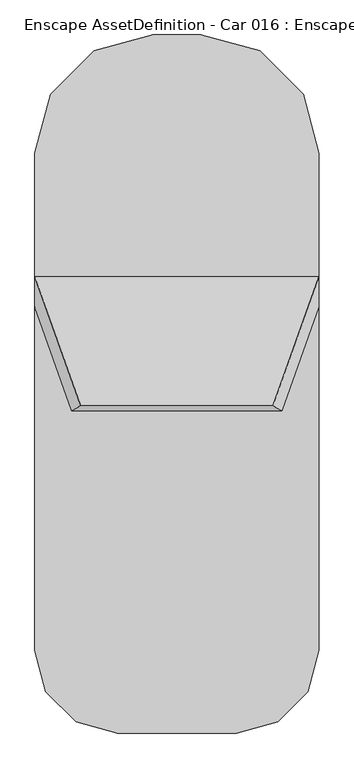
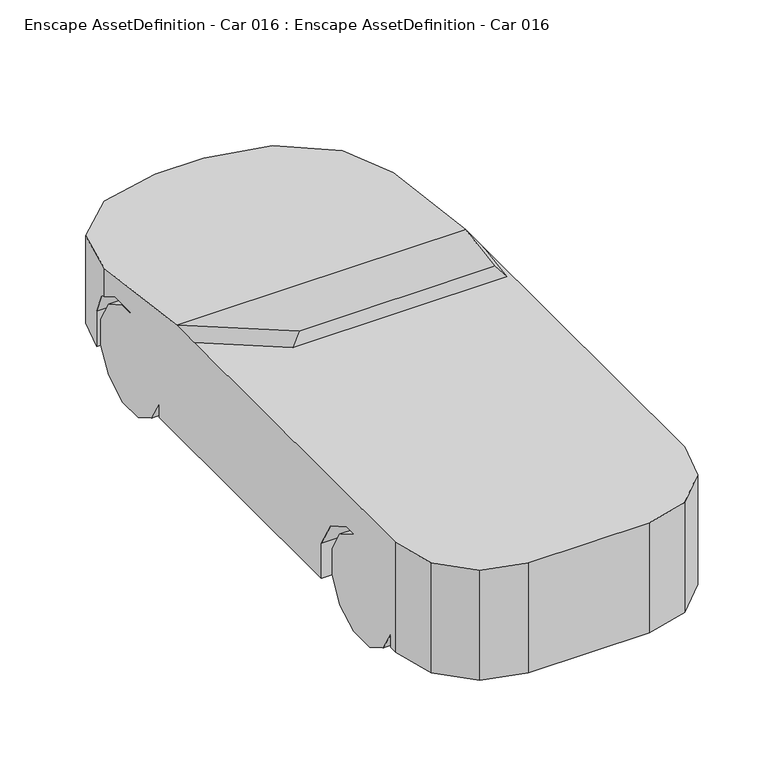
"""IFC4 building model written with IfcOpenShell, lengths in millimetres: geographic element geometry, Enscape AssetDefinition - Car 016 : Enscape AssetDefinition - Car 016."""

import ifcopenshell
import ifcopenshell.guid

model = None  # the IFC model being written
_history = None  # IfcOwnerHistory: only IFC2X3 demands one
_inside = {}  # id of a spatial element -> (the spatial element, [elements in it])
_under = {}  # id of a project, library or spatial element -> (it, [spatial elements below it])
_declared = {}  # id of a project -> (the project, [libraries it declares])
_typed = {}  # id of a type object -> (the type object, [elements of that type])
_made_of = {}  # id of a material, layer set ... -> (it, [elements and type objects made of it])


def new_model(schema):
    """Start an empty IFC model of exactly this schema.

    Asked for "IFC4X3", IfcOpenShell would pick the latest addendum, in which some entities
    have other attributes; the version numbers below select the first issue.
    IFC2X3 requires an IfcOwnerHistory on every rooted entity: one is made here for all.
    """
    global model, _history
    if schema == "IFC4X3":
        model = ifcopenshell.file(schema_version=(4, 3, 0, 0))
    else:
        model = ifcopenshell.file(schema=schema)
    _inside.clear()
    _under.clear()
    _declared.clear()
    _typed.clear()
    _made_of.clear()
    _history = None
    if model.schema == "IFC2X3":
        org = make("IfcOrganization", Name="unknown")
        user = make(
            "IfcPersonAndOrganization",
            ThePerson=make("IfcPerson", FamilyName="unknown"),
            TheOrganization=org,
        )
        app = make(
            "IfcApplication",
            ApplicationDeveloper=org,
            Version="unknown",
            ApplicationFullName="unknown",
            ApplicationIdentifier="unknown",
        )
        _history = make(
            "IfcOwnerHistory",
            OwningUser=user,
            OwningApplication=app,
            ChangeAction="ADDED",
            CreationDate=0,
        )
    return model


def make(cls, **values):
    """One entity of the class cls with the attributes given. An attribute that is None is left unset."""
    return model.create_entity(
        cls, **{name: value for name, value in values.items() if value is not None}
    )


def rooted(cls, **values):
    """An entity with a GlobalId (a new one), such as an element, a storey or a relation."""
    return make(cls, GlobalId=ifcopenshell.guid.new(), OwnerHistory=_history, **values)


def si_unit(unit_type, name, prefix=None):
    """IfcSIUnit, for example si_unit("LENGTHUNIT", "METRE", prefix="MILLI")."""
    return make("IfcSIUnit", UnitType=unit_type, Prefix=prefix, Name=name)


def assignment(units):
    """IfcUnitAssignment: the units of a project."""
    return None if units is None else make("IfcUnitAssignment", Units=units)


def point(xyz):
    """IfcCartesianPoint."""
    return None if xyz is None else make("IfcCartesianPoint", Coordinates=xyz)


def direction(xyz):
    """IfcDirection."""
    return None if xyz is None else make("IfcDirection", DirectionRatios=xyz)


def frame(location, z_axis=None, x_axis=None):
    """IfcAxis2Placement3D, a coordinate frame: its origin and axes. An axis left out is left unset."""
    return make(
        "IfcAxis2Placement3D",
        Location=point(location),
        Axis=direction(z_axis),
        RefDirection=direction(x_axis),
    )


def origin():
    """The frame at (0, 0, 0) with its axes left unset."""
    return frame((0.0, 0.0, 0.0))


def place(relative_to, where):
    """IfcLocalPlacement: puts the frame where relative to a parent placement (None: the world)."""
    return make(
        "IfcLocalPlacement", PlacementRelTo=relative_to, RelativePlacement=where
    )


def context(
    kind, dimensions, precision=None, world=None, true_north=None, identifier=None
):
    """IfcGeometricRepresentationContext, for example the 3D "Model" context."""
    return make(
        "IfcGeometricRepresentationContext",
        ContextIdentifier=identifier,
        ContextType=kind,
        CoordinateSpaceDimension=dimensions,
        Precision=precision,
        WorldCoordinateSystem=world,
        TrueNorth=true_north,
    )


def project(units=None, contexts=None):
    """IfcProject with its units and contexts."""
    return rooted(
        "IfcProject",
        Name="project",
        RepresentationContexts=contexts,
        UnitsInContext=assignment(units),
    )


def spatial(cls, under=None, at=None, **own):
    """A site, building, storey or space (cls), placed at a placement, below another one or the project."""
    s = rooted(cls, ObjectPlacement=at, **own)
    if under is not None:
        _under.setdefault(under.id(), (under, []))[1].append(s)
    return s


def point_list(points):
    """IfcCartesianPointList2D or 3D."""
    cls = (
        "IfcCartesianPointList2D" if len(points[0]) == 2 else "IfcCartesianPointList3D"
    )
    return make(cls, CoordList=points)


def triangles(points, corners, closed=None, point_numbers=None):
    """IfcTriangulatedFaceSet: each triangle names its three corners, points numbered from 1."""
    return make(
        "IfcTriangulatedFaceSet",
        Coordinates=point_list(points),
        Closed=closed,
        CoordIndex=corners,
        PnIndex=point_numbers,
    )


def shape(context_of_items, identifier, shape_type, items):
    """IfcShapeRepresentation: the items that make up one representation, for example the "Body"."""
    return make(
        "IfcShapeRepresentation",
        ContextOfItems=context_of_items,
        RepresentationIdentifier=identifier,
        RepresentationType=shape_type,
        Items=items,
    )


def source(mapping_origin, context_of_items, identifier, shape_type, items):
    """IfcRepresentationMap: a shape defined once, which mapped items show again and again."""
    return make(
        "IfcRepresentationMap",
        MappingOrigin=mapping_origin,
        MappedRepresentation=shape(context_of_items, identifier, shape_type, items),
    )


def transform(
    local_origin,
    x_axis=None,
    y_axis=None,
    z_axis=None,
    scale=None,
    scale2=None,
    scale3=None,
    uniform=True,
):
    """IfcCartesianTransformationOperator3D, or its non-uniform kind. x_axis, y_axis, z_axis: its Axis1, 2, 3."""
    if uniform:
        return make(
            "IfcCartesianTransformationOperator3D",
            Axis1=direction(x_axis),
            Axis2=direction(y_axis),
            LocalOrigin=point(local_origin),
            Scale=scale,
            Axis3=direction(z_axis),
        )
    return make(
        "IfcCartesianTransformationOperator3DnonUniform",
        Axis1=direction(x_axis),
        Axis2=direction(y_axis),
        LocalOrigin=point(local_origin),
        Scale=scale,
        Axis3=direction(z_axis),
        Scale2=scale2,
        Scale3=scale3,
    )


def mapped(mapping_source, mapping_target):
    """IfcMappedItem: shows the shape of a source again, moved by a transform."""
    return make(
        "IfcMappedItem", MappingSource=mapping_source, MappingTarget=mapping_target
    )


def made_of(thing, what):
    """Note that an element or type object is made of a material, layer set ...; save() writes the relation."""
    if what is not None:
        _made_of.setdefault(what.id(), (what, []))[1].append(thing)
    return thing


def element(
    cls,
    number,
    at=None,
    inside=None,
    cuts=None,
    type_object=None,
    material=None,
    context=None,
    identifier="Body",
    shape_type=None,
    held_by="IfcProductDefinitionShape",
    body=None,
    shapes=None,
    **own,
):
    """One element of the class cls, such as IfcWall. Its Tag is "e" and its number.

    at: its placement. inside: the storey or other place that contains it. cuts: it is an
    opening in that element (IfcRelVoidsElement). A single representation is given by context,
    identifier, shape_type and body (its items); several are given by shapes. held_by: the class
    of the entity that holds the representations. save() writes the other relations.
    """
    e = rooted(cls, Tag="e%d" % number, ObjectPlacement=at, **own)
    if body is not None:
        shapes = [shape(context, identifier, shape_type, body)]
    if shapes is not None:
        e.Representation = make(held_by, Representations=shapes)
    if inside is not None:
        _inside.setdefault(inside.id(), (inside, []))[1].append(e)
    if cuts is not None:
        rooted(
            "IfcRelVoidsElement", RelatingBuildingElement=cuts, RelatedOpeningElement=e
        )
    if type_object is not None:
        _typed.setdefault(type_object.id(), (type_object, []))[1].append(e)
    return made_of(e, material)


def aggregate(whole, parts):
    """IfcRelAggregates: a whole, such as a stair, and the parts it consists of."""
    return rooted("IfcRelAggregates", RelatingObject=whole, RelatedObjects=parts)


def save(model, path):
    """Write the relations noted so far, then the file.

    IfcRelAggregates (storeys below a building ...), IfcRelContainedInSpatialStructure (elements
    in a storey), IfcRelDefinesByType, IfcRelAssociatesMaterial and IfcRelDeclares: one each for
    every whole, place, type object, material and project.
    """
    for whole, parts in _under.values():
        aggregate(whole, parts)
    for where, things in _inside.values():
        rooted(
            "IfcRelContainedInSpatialStructure",
            RelatedElements=things,
            RelatingStructure=where,
        )
    for kind, things in _typed.values():
        rooted("IfcRelDefinesByType", RelatedObjects=things, RelatingType=kind)
    for what, things in _made_of.values():
        rooted("IfcRelAssociatesMaterial", RelatedObjects=things, RelatingMaterial=what)
    for by, libraries in _declared.values():
        rooted("IfcRelDeclares", RelatingContext=by, RelatedDefinitions=libraries)
    model.write(path)


def enscape_assetdefinition_car_016_enscape_assetdefinition_car_c40bcaf4(model_context):
    return source(origin(), model_context, "Body", "Tessellation", [
        triangles([(884.8579079, -1036.7504534, 239.1467945), (884.8579079, -1275.8166023, 653.2213926), (638.1643902, -1450.8252514, 653.2213926), (638.1643902, -1602.3869305, 565.7172134), (884.8579079, -1602.3869305, 565.7172134), (884.8579079, -1689.8913277, 239.1468853), (884.8579079, -1450.8252514, 653.2213926), (884.8579079, -1124.2547052, 565.7172134), (638.1643902, -1275.8166023, 653.2213926), (638.1643902, -1124.2547052, 565.7172134), (638.1643902, -1036.7504534, 414.1553527), (638.1643902, -1602.3870758, 87.5850609), (884.8579079, -1036.7504534, 414.1553527), (638.1643902, -1036.7504534, 239.1467945), (638.1643902, -1275.8167477, 0.0806409), (638.1643902, -1124.2549232, 87.5847975), (884.8579079, -1124.2549232, 87.5847975), (638.1643902, -1450.8253967, 0.0807209), (884.8579079, -1450.8253967, 0.0807209), (884.8579079, -1275.8167477, 0.0806409), (884.8579079, -1602.3870758, 87.5850609), (638.1643902, -1689.8913277, 414.1554254), (884.8579079, -1689.8913277, 414.1554254), (638.1643902, -1689.8913277, 239.1468853), (884.8579079, 1517.5006874, 239.1467581), (884.8579079, 951.8642103, 87.5850972), (884.8579079, 1103.4261074, 0.0808009), (884.8579079, 864.3601765, 239.1468671), (638.1643902, 1103.4261074, 0.0808009), (638.1643902, 951.8642103, 87.5850972), (638.1643902, 1278.4344658, 0.0806809), (638.1643902, 864.3601765, 239.1468671), (884.8579079, 1278.4344658, 0.0806809), (884.8579079, 1429.9964355, 87.5848701), (638.1643902, 1429.9964355, 87.5848701), (638.1643902, 1517.5006874, 239.1467581), (638.1643902, 1517.5006874, 414.1553527), (884.8579079, 1103.4262527, 653.2213926), (638.1643902, 1103.4262527, 653.2213926), (638.1643902, 1278.4347565, 653.2213926), (638.1643902, 1429.9967262, 565.7172861), (884.8579079, 1429.9967262, 565.7172861), (884.8579079, 1278.4347565, 653.2213926), (884.8579079, 1517.5006874, 414.1553527), (638.1643902, 951.8643557, 565.7172134), (884.8579079, 951.8643557, 565.7172134), (884.8579079, 864.3599585, 414.1554254), (638.1643902, 864.3599585, 414.1554254), (-884.8580532, -1450.8252514, 653.2213926), (-884.8580532, -1602.3869305, 565.7172134), (-638.1646082, -1602.3869305, 565.7172134), (-638.1646082, -1450.8252514, 653.2213926), (-884.8580532, -1602.3870758, 87.5850609), (-884.8580532, -1689.8913277, 414.1554254), (-638.1646082, -1689.8913277, 414.1554254), (-638.1646082, -1689.8913277, 239.1468853), (-884.8580532, -1689.8913277, 239.1468853), (-884.8580532, -1275.8167477, 0.0806409), (-638.1646082, -1602.3870758, 87.5850609), (-638.1646082, -1450.8253967, 0.0807209), (-884.8580532, -1450.8253967, 0.0807209), (-638.1646082, -1275.8167477, 0.0806409), (-638.1646082, -1124.2549232, 87.5847975), (-884.8580532, -1124.2549232, 87.5847975), (-884.8580532, -1036.7504534, 239.1467945), (-638.1646082, -1036.7504534, 239.1467945), (-638.1646082, -1036.7504534, 414.1553527), (-638.1646082, -1124.2547052, 565.7172134), (-884.8580532, -1124.2547052, 565.7172134), (-884.8580532, -1275.8166023, 653.2213926), (-638.1646082, -1275.8166023, 653.2213926), (-884.8580532, -1036.7504534, 414.1553527), (-884.8580532, 1278.4347565, 653.2213926), (-884.8580532, 864.3601765, 239.1468671), (-884.8580532, 1103.4262527, 653.2213926), (-884.8580532, 1429.9967262, 565.7172861), (-638.1646082, 1278.4347565, 653.2213926), (-638.1646082, 1429.9967262, 565.7172861), (-638.1646082, 1517.5006874, 414.1553527), (-638.1646082, 1517.5006874, 239.1467581), (-638.1646082, 1103.4262527, 653.2213926), (-884.8580532, 1517.5006874, 414.1553527), (-884.8580532, 1517.5006874, 239.1467581), (-638.1646082, 1429.9964355, 87.5848701), (-884.8580532, 1429.9964355, 87.5848701), (-884.8580532, 1278.4344658, 0.0806809), (-638.1646082, 1278.4344658, 0.0806809), (-638.1646082, 1103.4261074, 0.0808009), (-884.8580532, 1103.4261074, 0.0808009), (-884.8580532, 951.8642103, 87.5850972), (-638.1646082, 951.8642103, 87.5850972), (-638.1646082, 864.3601765, 239.1468671), (-884.8580532, 951.8643557, 565.7172134), (-638.1646082, 864.3599585, 414.1554254), (-884.8580532, 864.3599585, 414.1554254), (-638.1646082, 951.8643557, 565.7172134), (920.5409769, -1746.1326622, 429.2252541), (537.8161549, -1746.1326622, 429.2252541), (920.5409769, -1643.5584, 606.8887193), (920.5409769, -1746.1326622, 190.9407979), (920.5409769, -1801.313015, 930.5849859), (537.8161549, -1643.5584, 606.8887193), (920.5409769, -1465.8949711, 709.4627272), (920.5409769, -1260.7467373, 709.4627272), (537.8161549, -980.5091188, 429.2251451), (537.8161549, -1465.8949711, 709.4627272), (537.8161549, -1083.0832357, 606.8887193), (537.8161549, -1260.7467373, 709.4627272), (920.5409769, -1083.0832357, 606.8887193), (920.5409769, -980.5091188, 429.2251451), (920.5409769, -980.5089008, 190.9407616), (537.8161549, 808.1189146, 190.9407616), (920.5409042, 808.1189873, 190.9407616), (920.5409769, 808.1188419, 429.2252541), (920.5409769, 422.1621314, 930.5849859), (920.5409769, 910.6929588, 606.8887193), (537.8161549, 808.1188419, 429.2252541), (537.8161549, 910.6929588, 606.8887193), (920.5409769, 1088.3566057, 709.4627272), (537.8161549, 1088.3564604, 709.4627272), (537.8161549, 1573.7420219, 429.2251451), (537.8161549, 1293.5046215, 709.4627272), (920.5409769, 1293.5046215, 709.4627272), (537.8161549, 1471.1683411, 606.8887193), (920.5409769, 1415.6284172, 638.9546036), (878.1745222, 1573.7420219, 429.2251451), (878.1745222, 1573.7420219, 190.9407616), (817.8888851, 1798.7311958, 190.9407616), (817.8888851, 1798.7311958, 780.3186493), (920.5409769, 1415.6284172, 829.032609), (905.6591091, 1471.1683411, 606.8887193), (537.4381619, 2079.1819553, 744.6575266), (537.8161549, 1573.7420219, 190.9407979), (537.4381983, 2079.1819553, 190.9407616), (154.335456, 2181.8339745, 190.9407616), (154.335456, 2181.8339745, 731.6045443), (-154.335456, 2181.8339745, 190.9407616), (-154.335456, 2181.8339745, 731.6045443), (-537.4381619, 2079.1819553, 190.9407616), (-817.8888851, 1798.7311958, 190.9407616), (-537.4381983, 2079.1819553, 744.6575266), (-817.8888851, 1798.7311958, 780.3186493), (-878.1745222, 1573.7420219, 429.2251451), (-537.8163002, 1471.1683411, 606.8887193), (-905.6591091, 1471.1683411, 606.8887193), (-920.5409769, 1415.6284172, 638.9546036), (920.5409769, 616.9877758, 930.5849859), (-920.5409769, 1415.6284172, 829.032609), (-920.5409769, 1088.3566057, 709.4627272), (-920.5409769, 1293.5046215, 709.4627272), (-537.8163002, 1293.5046215, 709.4627272), (-920.5409769, 910.6929588, 606.8887193), (-537.8163002, 808.1188419, 429.2252541), (-537.8163002, 1088.3564604, 709.4627272), (-920.5409769, 616.9877758, 930.5849859), (-920.5409769, 808.1188419, 429.2252541), (-537.8163002, 910.6929588, 606.8887193), (-920.5409042, 808.1189146, 190.9407616), (-537.8163002, 1573.7420219, 429.2251451), (-537.8163002, 808.1189146, 190.9407616), (-920.5409769, -980.5089008, 190.9407616), (-878.1745222, 1573.7420219, 190.9407616), (-537.8163002, 1573.7420219, 190.9407979), (-537.8163365, -980.5091188, 190.9407616), (537.8161549, -980.5091188, 190.9407616), (920.5409769, -1801.313015, 190.9407616), (537.8161549, -1746.1326622, 190.9407616), (385.2575526, -2336.5964756, 190.9407616), (848.8265316, -2068.9546726, 190.9407616), (848.8266769, -2068.9546726, 930.5849859), (652.8992466, -2264.882103, 190.9407616), (385.2575163, -2336.5964756, 930.5849859), (652.8992466, -2264.882103, 930.5849859), (-385.2576253, -2336.5964756, 190.9407616), (-385.2576253, -2336.5964756, 930.5849859), (-920.5409769, 422.1618771, 930.5849859), (681.6783039, -249.2206163, 1222.4128853), (-623.1131287, -219.0069809, 1293.9641865), (623.1131287, -219.0068174, 1293.9641865), (-681.6783039, -249.220798, 1222.4128853), (-920.5409769, -1801.313015, 930.5849859), (-920.5409769, -1260.7467373, 709.4627272), (-920.5409769, -1083.0832357, 606.8887193), (-537.8163002, -980.5091188, 429.2251451), (-537.8163002, -1083.0832357, 606.8887193), (-920.5409769, -980.5091188, 429.2251451), (-537.8163002, -1260.7467373, 709.4627272), (-537.8163002, -1465.8949711, 709.4627272), (-537.8163002, -1746.1326622, 429.2252541), (-537.8163002, -1746.1326622, 190.9407616), (-920.5409769, -1746.1326622, 190.9407979), (-920.5409769, -1746.1326622, 429.2252541), (-537.8163002, -1643.5584, 606.8887193), (-920.5409769, -1465.8949711, 709.4627272), (-920.5409769, -1643.5584, 606.8887193), (-920.5409769, -1801.313015, 190.9407616), (-652.8993193, -2264.882103, 190.9407616), (-848.8266769, -2068.9546726, 190.9407616), (-848.8266769, -2068.9546726, 930.5849859), (-652.8993193, -2264.882103, 930.5849859)], [[181, 199, 175], [199, 200, 175], [197, 174, 175], [197, 175, 200], [198, 197, 200], [198, 200, 199], [196, 198, 199], [196, 199, 181], [174, 197, 190], [197, 198, 190], [198, 196, 190], [196, 191, 190], [196, 181, 192], [191, 196, 192], [195, 192, 181], [194, 195, 181], [188, 195, 194], [188, 193, 195], [193, 192, 195], [193, 189, 192], [189, 190, 191], [189, 191, 192], [164, 190, 189], [184, 164, 189], [193, 188, 185], [189, 193, 185], [185, 184, 189], [187, 188, 194], [188, 187, 185], [182, 194, 181], [187, 194, 182], [183, 185, 187], [183, 187, 182], [186, 184, 185], [186, 185, 183], [184, 186, 161], [184, 161, 164], [183, 176, 186], [182, 176, 183], [181, 176, 182], [161, 186, 176], [176, 178, 155], [176, 180, 178], [155, 178, 179], [180, 179, 178], [155, 179, 147], [180, 177, 179], [177, 180, 176], [179, 177, 115], [179, 115, 147], [177, 176, 115], [101, 115, 176], [176, 181, 101], [175, 172, 181], [101, 181, 172], [168, 174, 190], [168, 172, 175], [168, 175, 174], [173, 172, 168], [173, 170, 101], [172, 173, 101], [173, 168, 171], [169, 170, 173], [101, 170, 169], [169, 173, 171], [101, 169, 166], [167, 168, 190], [166, 169, 167], [171, 168, 167], [169, 171, 167], [190, 164, 165], [190, 165, 167], [164, 112, 165], [117, 112, 133], [112, 163, 133], [159, 162, 163], [160, 163, 112], [164, 160, 112], [164, 161, 160], [159, 163, 160], [158, 161, 176], [161, 158, 160], [156, 158, 176], [176, 155, 156], [153, 160, 158], [153, 159, 160], [153, 158, 156], [157, 153, 156], [155, 152, 156], [157, 156, 152], [154, 157, 152], [153, 157, 154], [159, 153, 154], [155, 149, 152], [154, 152, 149], [151, 154, 149], [154, 151, 159], [151, 149, 150], [155, 148, 149], [148, 150, 149], [147, 130, 148], [148, 155, 147], [148, 146, 150], [151, 150, 146], [144, 151, 146], [144, 159, 151], [145, 146, 148], [146, 145, 144], [143, 159, 144], [159, 143, 162], [143, 144, 145], [140, 162, 143], [163, 162, 140], [143, 145, 142], [140, 143, 142], [148, 142, 145], [140, 142, 141], [163, 140, 139], [140, 141, 139], [139, 141, 138], [138, 141, 142], [148, 138, 142], [163, 137, 133], [163, 139, 137], [139, 138, 137], [137, 135, 133], [135, 134, 133], [137, 138, 136], [134, 135, 136], [136, 138, 148], [148, 130, 136], [137, 136, 135], [134, 136, 132], [128, 127, 133], [134, 128, 133], [128, 134, 132], [129, 132, 136], [130, 129, 136], [128, 132, 129], [129, 130, 131], [128, 129, 126], [127, 128, 126], [129, 131, 126], [121, 133, 127], [133, 121, 117], [121, 127, 126], [124, 121, 126], [124, 126, 131], [130, 125, 131], [124, 131, 125], [123, 125, 130], [122, 124, 125], [125, 123, 122], [121, 124, 122], [120, 121, 122], [121, 120, 117], [119, 120, 122], [119, 123, 130], [130, 147, 119], [119, 122, 123], [118, 120, 119], [120, 118, 117], [117, 118, 116], [119, 147, 116], [118, 119, 116], [116, 147, 114], [147, 115, 114], [117, 116, 114], [117, 114, 113], [114, 115, 113], [117, 113, 112], [112, 111, 165], [112, 113, 111], [105, 165, 111], [111, 113, 115], [105, 111, 110], [110, 111, 115], [115, 109, 110], [107, 105, 110], [107, 110, 109], [108, 107, 109], [115, 104, 109], [115, 101, 104], [108, 109, 104], [106, 108, 104], [107, 108, 106], [105, 107, 106], [101, 103, 104], [106, 104, 103], [102, 106, 103], [106, 102, 105], [101, 99, 103], [102, 103, 99], [101, 97, 99], [101, 166, 97], [100, 166, 167], [166, 100, 97], [98, 102, 99], [98, 97, 100], [102, 98, 105], [165, 105, 98], [98, 99, 97], [98, 100, 167], [98, 167, 165], [93, 96, 81], [95, 96, 93], [95, 94, 96], [74, 95, 93], [74, 94, 95], [96, 94, 92], [81, 96, 92], [74, 92, 94], [90, 91, 92], [90, 92, 74], [89, 91, 90], [89, 88, 91], [92, 91, 88], [90, 74, 86], [86, 89, 90], [86, 88, 89], [86, 87, 88], [88, 87, 92], [81, 92, 87], [85, 87, 86], [85, 84, 87], [86, 74, 83], [83, 85, 86], [82, 83, 74], [83, 84, 85], [83, 80, 84], [87, 84, 80], [82, 80, 83], [87, 80, 81], [82, 79, 80], [80, 79, 81], [76, 79, 82], [76, 78, 79], [81, 79, 77], [79, 78, 77], [73, 77, 78], [76, 82, 73], [73, 78, 76], [75, 81, 77], [93, 75, 74], [75, 82, 74], [93, 81, 75], [75, 77, 73], [75, 73, 82], [69, 72, 65], [69, 67, 72], [69, 68, 67], [69, 70, 71], [69, 71, 68], [72, 67, 66], [68, 71, 66], [66, 67, 68], [72, 66, 65], [65, 66, 63], [65, 64, 69], [65, 63, 64], [64, 63, 62], [62, 63, 66], [66, 71, 62], [58, 62, 60], [64, 58, 69], [64, 62, 58], [58, 60, 61], [61, 60, 59], [59, 60, 62], [71, 52, 59], [59, 62, 71], [56, 59, 52], [53, 59, 56], [58, 61, 53], [61, 59, 53], [53, 56, 57], [57, 56, 55], [55, 56, 52], [52, 51, 55], [54, 55, 51], [58, 53, 54], [53, 57, 54], [57, 55, 54], [50, 51, 52], [54, 51, 50], [49, 52, 71], [54, 49, 58], [49, 70, 69], [54, 50, 49], [49, 71, 70], [50, 52, 49], [49, 69, 58], [47, 48, 32], [28, 32, 30], [47, 32, 28], [46, 47, 28], [46, 48, 47], [46, 45, 48], [45, 39, 32], [32, 48, 45], [38, 39, 45], [38, 46, 28], [38, 45, 46], [43, 39, 38], [43, 40, 39], [42, 40, 43], [42, 41, 40], [38, 44, 43], [44, 42, 43], [44, 41, 42], [44, 37, 41], [39, 40, 37], [41, 37, 40], [25, 44, 38], [25, 37, 44], [25, 36, 37], [37, 36, 39], [34, 36, 25], [32, 39, 36], [34, 35, 36], [33, 34, 25], [33, 35, 34], [33, 31, 35], [31, 32, 36], [30, 32, 31], [36, 35, 31], [31, 29, 30], [26, 30, 29], [28, 30, 26], [27, 29, 31], [27, 33, 25], [38, 28, 27], [28, 26, 27], [27, 31, 33], [26, 29, 27], [27, 25, 38], [5, 4, 22], [22, 4, 3], [12, 24, 22], [23, 22, 24], [5, 22, 23], [6, 24, 12], [23, 24, 6], [21, 12, 18], [21, 18, 19], [6, 12, 21], [21, 19, 20], [19, 18, 15], [15, 18, 12], [19, 15, 20], [20, 15, 16], [20, 16, 17], [21, 20, 1], [20, 17, 1], [17, 16, 14], [14, 15, 12], [14, 16, 15], [17, 14, 1], [1, 14, 11], [1, 11, 13], [12, 22, 10], [10, 14, 12], [10, 11, 14], [13, 11, 10], [22, 3, 10], [3, 9, 10], [8, 10, 9], [1, 13, 8], [13, 10, 8], [2, 9, 3], [8, 2, 1], [8, 9, 2], [7, 3, 4], [6, 21, 7], [23, 6, 7], [7, 5, 23], [2, 7, 1], [7, 4, 5], [2, 3, 7], [7, 21, 1]]),
    ])


if __name__ == "__main__":
    model = new_model("IFC4")
    model_context = context("Model", 3, world=origin())
    ifc_project = project(units=[si_unit("LENGTHUNIT", "METRE", prefix="MILLI")], contexts=[model_context])
    site = spatial("IfcSite", under=ifc_project)
    building = spatial("IfcBuilding", under=site)
    placement = place(None, origin())
    enscape_assetdefinition_car_016_enscape_assetdefinition_car_shape = enscape_assetdefinition_car_016_enscape_assetdefinition_car_c40bcaf4(model_context)
    element("IfcGeographicElement", 1, ObjectType="Enscape AssetDefinition - Car 016 : Enscape AssetDefinition - Car 016", at=placement, inside=building, context=model_context, shape_type="MappedRepresentation", body=[
        mapped(enscape_assetdefinition_car_016_enscape_assetdefinition_car_shape, transform((0.0, 0.0, 0.0), x_axis=(1.0, 0.0, 0.0), y_axis=(0.0, 1.0, 0.0), z_axis=(0.0, 0.0, 1.0))),
    ])
    save(model, "model.ifc")
